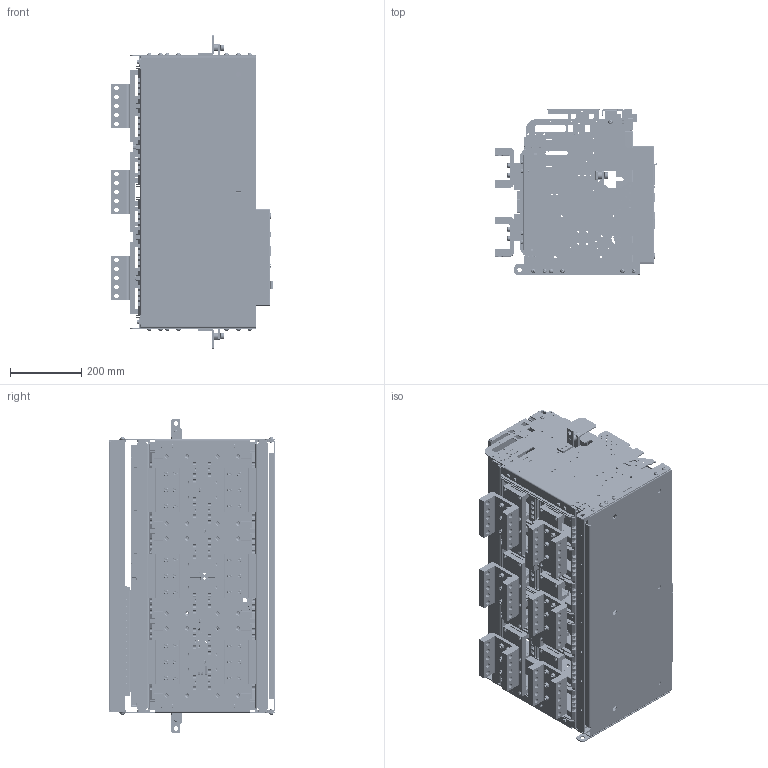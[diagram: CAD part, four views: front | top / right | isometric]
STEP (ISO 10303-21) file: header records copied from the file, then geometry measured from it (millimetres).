
FILE_DESCRIPTION((''),'2;1');
FILE_NAME('D403H_ASM','2017-02-01T',('HHI'),(''),'PRO/ENGINEER BY PARAMETRIC TECHNOLOGY CORPORATION, 2012453','PRO/ENGINEER BY PARAMETRIC TECHNOLOGY CORPORATION, 2012453','');
FILE_SCHEMA(('CONFIG_CONTROL_DESIGN'));
Products named in the file (54): 3AT-03371; 1AT-00887S02_ASM; 3AT-04942; ACB_P_PH_SCREW_M6_L12_SW; 3AT-03372; 1AT-00888S02_ASM; 3AT-04944; CONTROL_JACK_FOR_CRADLE; 9239000363_ASM; 1AT-00880S07_ASM; 3AT-05053; 4AT-06870; 3AT-05054_ASM; 1AT-00751_AF0; HEX_NUT_M6; 1AT-01050_ASM; 3AT-05055; 3AT-05056_ASM; ACB_HEX_BOLT_M6_18_SW; 3AT-05062; 3AT-05305; 3AT-05283_ASM; 3AT-05307; 3AT-04102S03; 3AT-05285_ASM; 3AT-05282S01; ACB_HEX_BOLT_M8_L20_SW; U_ARC_SHIELD_633; SC-FIX-BLOCK-L; FIX_BODY_EXTRA; FIX_BLOCK_CRADLE; BOLT; FIX_BODY_ASM_L_ASM; SC-FIX-BLOCK-R; SC-FIX-BLOCK-SUP-R; FIX_BODY_ASM_R_ASM; SC_CONTROL_JACK; SC_MAIN_FRONT_COVER40_2011_1215; SC_DR_DEVICE_COVER2; SC_DR_LOCK_PUSH_BUTTON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
Assembly tree (186 placements, depth 5):
  D403H_ASM
    1AT-00887S02_ASM
      3AT-03371
    3AT-04942
    ACB_P_PH_SCREW_M6_L12_SW  x14
    1AT-00888S02_ASM
      3AT-03372
    1AT-00880S07_ASM
      3AT-04944
      9239000363_ASM
        CONTROL_JACK_FOR_CRADLE
    3AT-05054_ASM
      3AT-05053
      4AT-06870  x8
    1AT-01050_ASM  x2
      1AT-00751_AF0
      HEX_NUT_M6
    3AT-05056_ASM
      3AT-05055
      4AT-06870  x6
    ACB_HEX_BOLT_M6_18_SW  x8
    3AT-05062  x24
    3AT-05283_ASM  x4
      3AT-05305
    3AT-05285_ASM  x2
      3AT-05307
      3AT-04102S03
    3AT-05282S01  x6
    ACB_HEX_BOLT_M8_L20_SW  x36
    U_ARC_SHIELD_633
    FIX_BODY_ASM_L_ASM
      SC-FIX-BLOCK-L
      FIX_BODY_EXTRA
      FIX_BLOCK_CRADLE
      BOLT
    FIX_BODY_ASM_R_ASM
      SC-FIX-BLOCK-R
      SC-FIX-BLOCK-SUP-R
      FIX_BLOCK_CRADLE
      BOLT
    COVER_633_ASM
      COVER403_ASSY_ASM
        SC_CONTROL_JACK
        SC_MAIN_FRONT_COVER40_2011_1215
        DR_COVER_SAMPLE_ASM
          SC_DR_DEVICE_COVER2
          SC_DR_LOCK_PUSH_BUTTON
          SC_MANUAL_POSITION_LOCK
          SC-DR-INDICATOR_SAMPLE
        OCR_COVER_SAMPLE_ASM
          MAIN_SC-OCR-COVER-U-DD-RE
          MAIN_SC-OCR-PROTECTION-COVER-RE
          MAIN_SC-OCR-LOWER-COVER-RE
        SC-CLOSE-BUTTON
        SC-OPEN-BUTTON
        N_CHARGE_HANDLE
      3AT-04830
Bounding box: 453.03 x 466.35 x 878.2 mm (x, y, z)
Volume: 12558496.9 mm3; surface area: 6033351.5 mm2
Topology: 203 solids, 318 shells, 21381 faces, 59838 edges, 38611 vertices
Faces by surface type: plane 15259, cylinder 4579, cone 681, torus 360, extrusion 181, sphere 163, bspline 158
Entity records: 501460 total; most frequent: CARTESIAN_POINT 97609, ORIENTED_EDGE 86770, DIRECTION 78790, EDGE_CURVE 43563, VECTOR 37122, LINE 36941, VERTEX_POINT 28483, AXIS2_PLACEMENT_3D 20834
